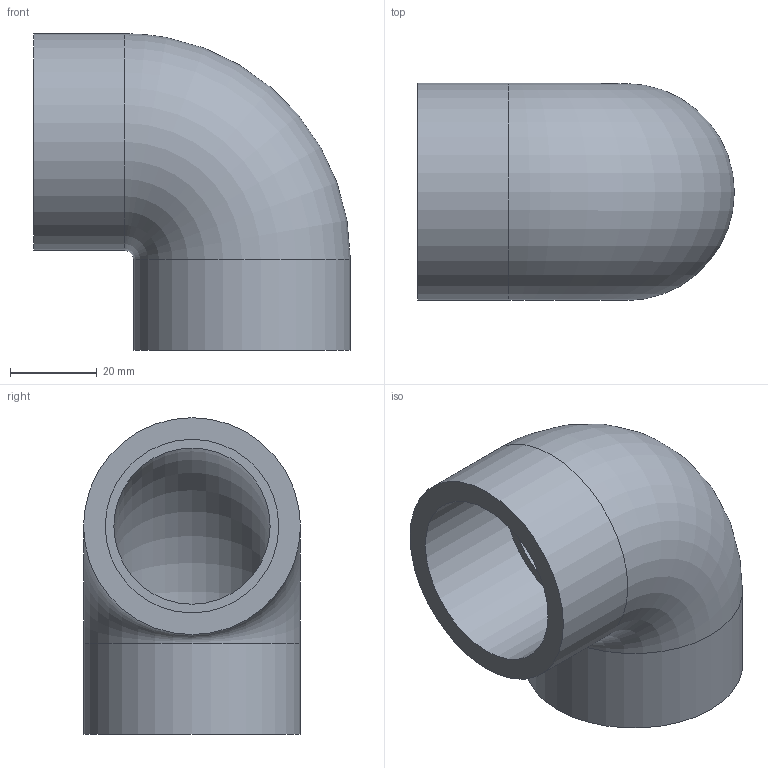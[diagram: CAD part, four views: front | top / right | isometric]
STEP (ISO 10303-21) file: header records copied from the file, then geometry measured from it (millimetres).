
FILE_DESCRIPTION(/* description */ ('PVC Elbow 90° solvent cement metric'),/* implementation_level */ '2;1');
FILE_NAME(/* name */ 'C:\Users\POLYPIPE\Desktop\DATASET INVENTOR\LIBRERIA EFFAST\RACCORDI 3DxWEB\RDR\3D_RDRGOD\3D_RDRGOD0400.stp',/* time_stamp */ '2018-01-19T14:27:33+01:00',/* author */ ('POLYPIPE'),/* organization */ ('Polypipe Italia s.r.l.'),/* preprocessor_version */ 'ST-DEVELOPER v16.1',/* originating_system */ 'Autodesk Inventor 2016',/* authorisation */ '');
FILE_SCHEMA (('CONFIG_CONTROL_DESIGN'));
Length unit declared in the file: millimetre
Products named in the file (1): 3D_RDRGOD
Bounding box: 73 x 50 x 73 mm (x, y, z)
Volume: 65221.2 mm3; surface area: 25593.4 mm2
Topology: 1 solids, 1 shells, 10 faces, 16 edges, 10 vertices
Faces by surface type: cylinder 4, plane 4, torus 2
Full cylindrical faces by diameter (mm): 40 x2, 50 x2
Entity records: 232 total; most frequent: DIRECTION 42, CARTESIAN_POINT 31, AXIS2_PLACEMENT_3D 21, EDGE_LOOP 20, ORIENTED_EDGE 20, FACE_BOUND 10, FACE_OUTER_BOUND 10, CIRCLE 10
